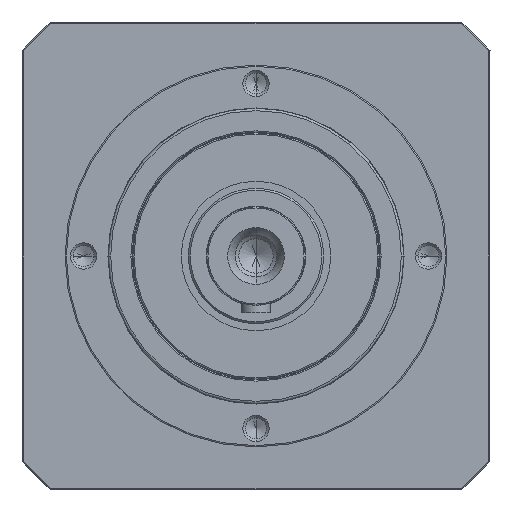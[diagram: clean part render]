
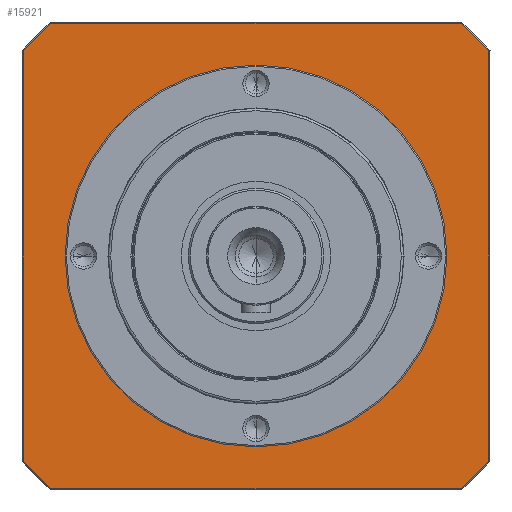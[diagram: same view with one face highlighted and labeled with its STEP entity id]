
A CAD part, left-side view. The second image highlights one B-rep face of the part: STEP entity #15921.
In plain terms, the highlighted planar face has unit normal (-1, 0, 0) as drawn and (0, 0, -1) by its records, which use the part's own axes.
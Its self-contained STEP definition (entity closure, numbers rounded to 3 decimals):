
#14803=CARTESIAN_POINT('',(0.,0.,
2.5));
#14804=DIRECTION('',(0.,0.,-1.));
#14805=DIRECTION('',(0.,-1.,0.));
#14806=AXIS2_PLACEMENT_3D('',#14803,#14804,#14805);
#14808=CARTESIAN_POINT('',(0.,0.,
2.5));
#14809=DIRECTION('',(0.,0.,-1.));
#14810=DIRECTION('',(0.,1.,0.));
#14811=AXIS2_PLACEMENT_3D('',#14808,#14809,#14810);
#14813=CARTESIAN_POINT('',(0.,0.,2.5));
#14814=DIRECTION('',(0.,0.,1.));
#14815=DIRECTION('',(-0.75,-0.661,0.));
#14816=AXIS2_PLACEMENT_3D('',#14813,#14814,#14815);
#14818=DIRECTION('',(1.,0.,0.));
#14819=VECTOR('',#14818,166.682);
#14820=CARTESIAN_POINT('',(-83.341,-94.5,
2.5));
#14821=LINE('',#14820,#14819);
#14822=CARTESIAN_POINT('',(0.,0.,2.5));
#14823=DIRECTION('',(0.,0.,1.));
#14824=DIRECTION('',(0.661,-0.75,0.));
#14825=AXIS2_PLACEMENT_3D('',#14822,#14823,#14824);
#14827=DIRECTION('',(0.,1.,0.));
#14828=VECTOR('',#14827,166.682);
#14829=CARTESIAN_POINT('',(94.5,-83.341,
2.5));
#14830=LINE('',#14829,#14828);
#14831=CARTESIAN_POINT('',(0.,0.,2.5));
#14832=DIRECTION('',(0.,0.,1.));
#14833=DIRECTION('',(0.75,0.661,0.));
#14834=AXIS2_PLACEMENT_3D('',#14831,#14832,#14833);
#14836=DIRECTION('',(-1.,0.,0.));
#14837=VECTOR('',#14836,166.682);
#14838=CARTESIAN_POINT('',(83.341,94.5,2.5));
#14839=LINE('',#14838,#14837);
#14840=CARTESIAN_POINT('',(0.,0.,2.5));
#14841=DIRECTION('',(0.,0.,1.));
#14842=DIRECTION('',(-0.661,0.75,0.));
#14843=AXIS2_PLACEMENT_3D('',#14840,#14841,#14842);
#14845=DIRECTION('',(0.,-1.,0.));
#14846=VECTOR('',#14845,166.682);
#14847=CARTESIAN_POINT('',(-94.5,83.341,
2.5));
#14848=LINE('',#14847,#14846);
#15570=CARTESIAN_POINT('',(0.,-76.5,2.5));
#15571=CARTESIAN_POINT('',(0.,76.5,
2.5));
#15572=VERTEX_POINT('',#15570);
#15573=VERTEX_POINT('',#15571);
#15674=CARTESIAN_POINT('',(-94.5,-83.341,2.5));
#15675=CARTESIAN_POINT('',(-83.341,-94.5,2.5));
#15676=VERTEX_POINT('',#15674);
#15677=VERTEX_POINT('',#15675);
#15682=CARTESIAN_POINT('',(83.341,-94.5,
2.5));
#15683=VERTEX_POINT('',#15682);
#15686=CARTESIAN_POINT('',(94.5,-83.341,2.5));
#15687=VERTEX_POINT('',#15686);
#15690=CARTESIAN_POINT('',(94.5,83.341,2.5));
#15691=VERTEX_POINT('',#15690);
#15694=CARTESIAN_POINT('',(83.341,94.5,2.5));
#15695=VERTEX_POINT('',#15694);
#15698=CARTESIAN_POINT('',(-83.341,94.5,
2.5));
#15699=VERTEX_POINT('',#15698);
#15704=CARTESIAN_POINT('',(-94.5,83.341,2.5));
#15705=VERTEX_POINT('',#15704);
#15893=CARTESIAN_POINT('',(0.,0.,2.5));
#15894=DIRECTION('',(0.,0.,1.));
#15895=DIRECTION('',(0.,1.,0.));
#15896=AXIS2_PLACEMENT_3D('',#15893,#15894,#15895);
#15897=PLANE('',#15896);
#15899=ORIENTED_EDGE('',*,*,#15898,.T.);
#15901=ORIENTED_EDGE('',*,*,#15900,.T.);
#15903=ORIENTED_EDGE('',*,*,#15902,.T.);
#15905=ORIENTED_EDGE('',*,*,#15904,.T.);
#15907=ORIENTED_EDGE('',*,*,#15906,.T.);
#15909=ORIENTED_EDGE('',*,*,#15908,.T.);
#15911=ORIENTED_EDGE('',*,*,#15910,.T.);
#15913=ORIENTED_EDGE('',*,*,#15912,.T.);
#15914=EDGE_LOOP('',(#15899,#15901,#15903,#15905,#15907,#15909,#15911,#15913));
#15915=FACE_OUTER_BOUND('',#15914,.F.);
#15917=ORIENTED_EDGE('',*,*,#15916,.T.);
#15918=ORIENTED_EDGE('',*,*,#15883,.T.);
#15919=EDGE_LOOP('',(#15917,#15918));
#15920=FACE_BOUND('',#15919,.F.);
#15921=ADVANCED_FACE('',(#15915,#15920),#15897,.F.);
#14807=CIRCLE('',#14806,76.5);
#14812=CIRCLE('',#14811,76.5);
#14817=CIRCLE('',#14816,126.);
#14826=CIRCLE('',#14825,126.);
#14835=CIRCLE('',#14834,126.);
#14844=CIRCLE('',#14843,126.);
#15883=EDGE_CURVE('',#15573,#15572,#14812,.T.);
#15898=EDGE_CURVE('',#15676,#15677,#14817,.T.);
#15900=EDGE_CURVE('',#15677,#15683,#14821,.T.);
#15902=EDGE_CURVE('',#15683,#15687,#14826,.T.);
#15904=EDGE_CURVE('',#15687,#15691,#14830,.T.);
#15906=EDGE_CURVE('',#15691,#15695,#14835,.T.);
#15908=EDGE_CURVE('',#15695,#15699,#14839,.T.);
#15910=EDGE_CURVE('',#15699,#15705,#14844,.T.);
#15912=EDGE_CURVE('',#15705,#15676,#14848,.T.);
#15916=EDGE_CURVE('',#15572,#15573,#14807,.T.);
